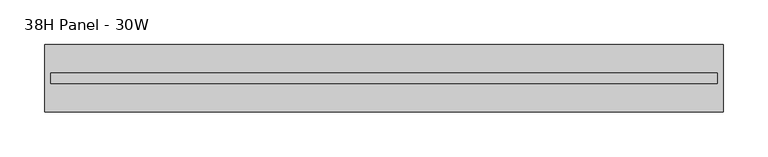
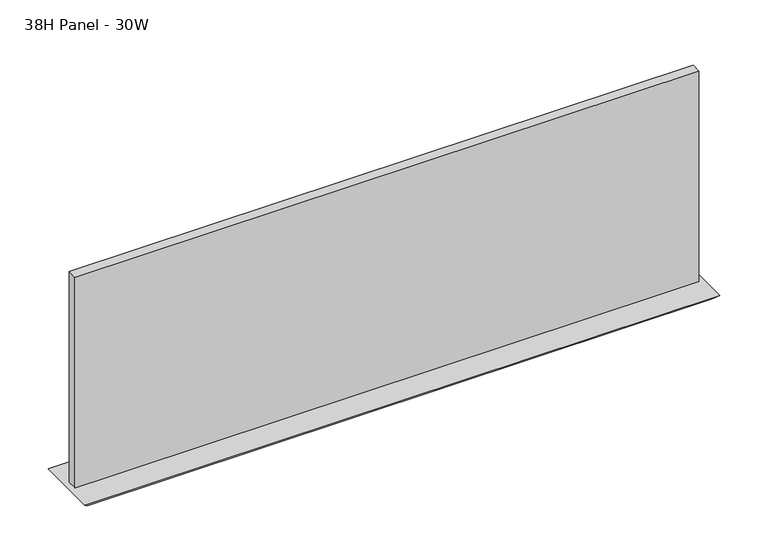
"""IFC4 building model written with IfcOpenShell, lengths in millimetres: furniture geometry, Steelcase - Montage - Tiles - 10H - Frameless Glass Stacker : 38H Panel - 30W."""

from ifc_helpers import new_model, si_unit, frame, origin, place, context, project, spatial, polyline, outline, extrude, faceted_brep, source, transform, mapped, element, save


def furniture_38h_panel_30w_59863c71(model_context):
    return source(origin(), model_context, "Body", "SolidModel", [
        faceted_brep([(762.0, -38.1000015, 958.85), (0.0, -38.1000015, 958.85), (6.35, -31.7500015, 952.5), (755.65, -31.7500015, 952.5), (6.35, 31.7500015, 952.5), (755.65, 31.7500015, 952.5), (0.0, 38.1000015, 958.85), (762.0, 38.1000015, 958.85)], [[[0, 1, 2, 3]], [[3, 2, 4, 5]], [[6, 7, 5, 4]], [[1, 0, 7, 6]], [[2, 1, 6, 4]], [[0, 3, 5, 7]]]),
        extrude(outline(polyline([(755.2181828, -5.9944001), (6.7818001, -5.9944001), (6.7818001, 5.9944008), (755.2181828, 5.9944008), (755.2181828, -5.9944001)])), frame((0.0, 0.0, 958.85), z_axis=(0.0, 0.0, 1.0), x_axis=(1.0, 0.0, 0.0)), (0.0, 0.0, 1.0), 267.7160475),
    ])


if __name__ == "__main__":
    model = new_model("IFC4")
    model_context = context("Model", 3, world=origin())
    ifc_project = project(units=[si_unit("LENGTHUNIT", "METRE", prefix="MILLI")], contexts=[model_context])
    site = spatial("IfcSite", under=ifc_project)
    building = spatial("IfcBuilding", under=site)
    placement = place(None, origin())
    furniture_38h_panel_30w_shape = furniture_38h_panel_30w_59863c71(model_context)
    element("IfcFurniture", 1, ObjectType="Steelcase - Montage - Tiles - 10H - Frameless Glass Stacker : 38H Panel - 30W", at=placement, inside=building, context=model_context, shape_type="MappedRepresentation", body=[
        mapped(furniture_38h_panel_30w_shape, transform((0.0, 0.0, 0.0), x_axis=(1.0, 0.0, 0.0), y_axis=(0.0, 1.0, 0.0), z_axis=(0.0, 0.0, 1.0))),
    ])
    save(model, "model.ifc")
